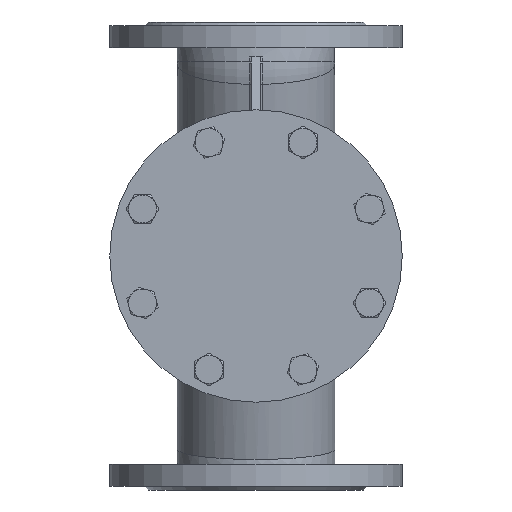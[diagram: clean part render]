
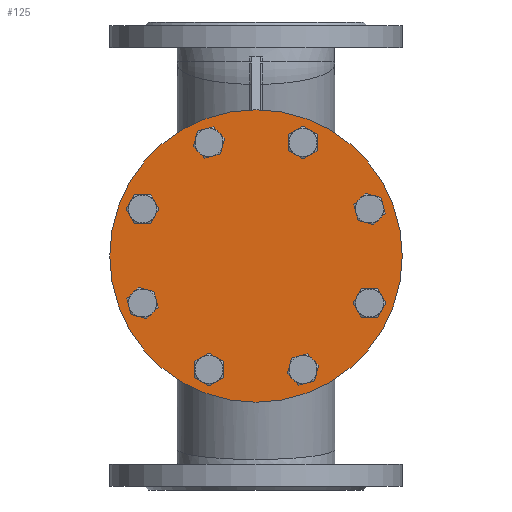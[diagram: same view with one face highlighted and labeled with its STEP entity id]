
A CAD part, front view. The second image highlights one B-rep face of the part: STEP entity #125.
In plain terms, the highlighted planar face has unit normal (0, -1, 0).
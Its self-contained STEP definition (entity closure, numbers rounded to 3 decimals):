
#125=ADVANCED_FACE('',(#10057,#10059,#10061,#10063,#10065,#10067,#10069,#10071,#10073),
#10075,.F.);
#10057=FACE_BOUND('',#10058,.T.);
#10058=EDGE_LOOP('',(#23584));
#10059=FACE_BOUND('',#10060,.T.);
#10060=EDGE_LOOP('',(#23585));
#10061=FACE_BOUND('',#10062,.T.);
#10062=EDGE_LOOP('',(#23586));
#10063=FACE_BOUND('',#10064,.T.);
#10064=EDGE_LOOP('',(#23587));
#10065=FACE_BOUND('',#10066,.T.);
#10066=EDGE_LOOP('',(#23588));
#10067=FACE_BOUND('',#10068,.T.);
#10068=EDGE_LOOP('',(#23589));
#10069=FACE_BOUND('',#10070,.T.);
#10070=EDGE_LOOP('',(#23590));
#10071=FACE_BOUND('',#10072,.T.);
#10072=EDGE_LOOP('',(#23591));
#10073=FACE_BOUND('',#10074,.T.);
#10074=EDGE_LOOP('',(#23592));
#10075=PLANE('',#10076);
#10076=AXIS2_PLACEMENT_3D('',#10077,#10078,#10079);
#10077=CARTESIAN_POINT('',(0.,-220.,0.));
#10078=DIRECTION('',(0.,1.,0.));
#10079=DIRECTION('',(1.,0.,0.));
#23584=ORIENTED_EDGE('',*,*,#31311,.F.);
#23585=ORIENTED_EDGE('',*,*,#31312,.F.);
#23586=ORIENTED_EDGE('',*,*,#31313,.F.);
#23587=ORIENTED_EDGE('',*,*,#31314,.F.);
#23588=ORIENTED_EDGE('',*,*,#31315,.F.);
#23589=ORIENTED_EDGE('',*,*,#31316,.F.);
#23590=ORIENTED_EDGE('',*,*,#31317,.F.);
#23591=ORIENTED_EDGE('',*,*,#31318,.F.);
#23592=ORIENTED_EDGE('',*,*,#31319,.F.);
#31311=EDGE_CURVE('',#34916,#34916,#34917,.T.);
#31312=EDGE_CURVE('',#34918,#34918,#34919,.T.);
#31313=EDGE_CURVE('',#34920,#34920,#34921,.T.);
#31314=EDGE_CURVE('',#34922,#34922,#34923,.T.);
#31315=EDGE_CURVE('',#34924,#34924,#34925,.T.);
#31316=EDGE_CURVE('',#34926,#34926,#34927,.T.);
#31317=EDGE_CURVE('',#34928,#34928,#34929,.T.);
#31318=EDGE_CURVE('',#34930,#34930,#34931,.T.);
#31319=EDGE_CURVE('',#34932,#34932,#34933,.T.);
#34916=VERTEX_POINT('',#40895);
#34917=CIRCLE('',#40896,125.);
#34918=VERTEX_POINT('',#40900);
#34919=CIRCLE('',#40901,12.);
#34920=VERTEX_POINT('',#40905);
#34921=CIRCLE('',#40906,12.);
#34922=VERTEX_POINT('',#40910);
#34923=CIRCLE('',#40911,12.);
#34924=VERTEX_POINT('',#40915);
#34925=CIRCLE('',#40916,12.);
#34926=VERTEX_POINT('',#40920);
#34927=CIRCLE('',#40921,12.);
#34928=VERTEX_POINT('',#40925);
#34929=CIRCLE('',#40926,12.);
#34930=VERTEX_POINT('',#40930);
#34931=CIRCLE('',#40931,12.);
#34932=VERTEX_POINT('',#40935);
#34933=CIRCLE('',#40936,12.);
#40895=CARTESIAN_POINT('',(125.,-220.,0.));
#40896=AXIS2_PLACEMENT_3D('',#40897,#40898,#40899);
#40897=CARTESIAN_POINT('',(0.,-220.,0.));
#40898=DIRECTION('',(0.,1.,0.));
#40899=DIRECTION('',(1.,0.,0.));
#40900=CARTESIAN_POINT('',(-88.522,-220.,-48.667));
#40901=AXIS2_PLACEMENT_3D('',#40902,#40903,#40904);
#40902=CARTESIAN_POINT('',(-97.007,-220.,-40.182));
#40903=DIRECTION('',(0.,-1.,0.));
#40904=DIRECTION('',(0.707,0.,-0.707));
#40905=CARTESIAN_POINT('',(-48.667,-220.,88.522));
#40906=AXIS2_PLACEMENT_3D('',#40907,#40908,#40909);
#40907=CARTESIAN_POINT('',(-40.182,-220.,97.007));
#40908=DIRECTION('',(0.,-1.,0.));
#40909=DIRECTION('',(-0.707,0.,-0.707));
#40910=CARTESIAN_POINT('',(88.522,-220.,48.667));
#40911=AXIS2_PLACEMENT_3D('',#40912,#40913,#40914);
#40912=CARTESIAN_POINT('',(97.007,-220.,40.182));
#40913=DIRECTION('',(0.,-1.,0.));
#40914=DIRECTION('',(-0.707,0.,0.707));
#40915=CARTESIAN_POINT('',(48.667,-220.,-88.522));
#40916=AXIS2_PLACEMENT_3D('',#40917,#40918,#40919);
#40917=CARTESIAN_POINT('',(40.182,-220.,-97.007));
#40918=DIRECTION('',(0.,-1.,0.));
#40919=DIRECTION('',(0.707,0.,0.707));
#40920=CARTESIAN_POINT('',(-28.182,-220.,-97.007));
#40921=AXIS2_PLACEMENT_3D('',#40922,#40923,#40924);
#40922=CARTESIAN_POINT('',(-40.182,-220.,-97.007));
#40923=DIRECTION('',(0.,-1.,0.));
#40924=DIRECTION('',(1.,0.,0.));
#40925=CARTESIAN_POINT('',(-97.007,-220.,28.182));
#40926=AXIS2_PLACEMENT_3D('',#40927,#40928,#40929);
#40927=CARTESIAN_POINT('',(-97.007,-220.,40.182));
#40928=DIRECTION('',(0.,-1.,0.));
#40929=DIRECTION('',(0.,0.,-1.));
#40930=CARTESIAN_POINT('',(28.182,-220.,97.007));
#40931=AXIS2_PLACEMENT_3D('',#40932,#40933,#40934);
#40932=CARTESIAN_POINT('',(40.182,-220.,97.007));
#40933=DIRECTION('',(0.,-1.,0.));
#40934=DIRECTION('',(-1.,0.,0.));
#40935=CARTESIAN_POINT('',(97.007,-220.,-28.182));
#40936=AXIS2_PLACEMENT_3D('',#40937,#40938,#40939);
#40937=CARTESIAN_POINT('',(97.007,-220.,-40.182));
#40938=DIRECTION('',(0.,-1.,0.));
#40939=DIRECTION('',(0.,0.,1.));
